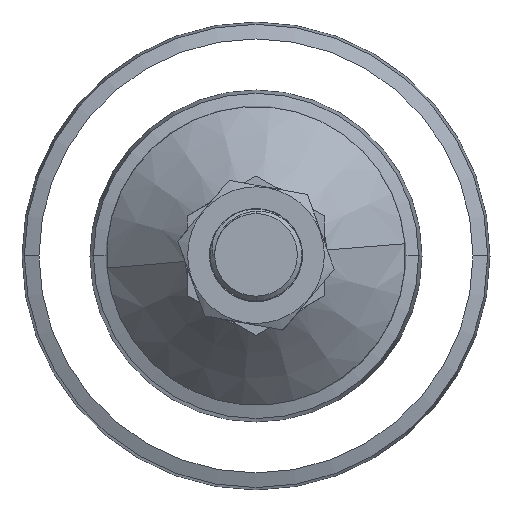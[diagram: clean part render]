
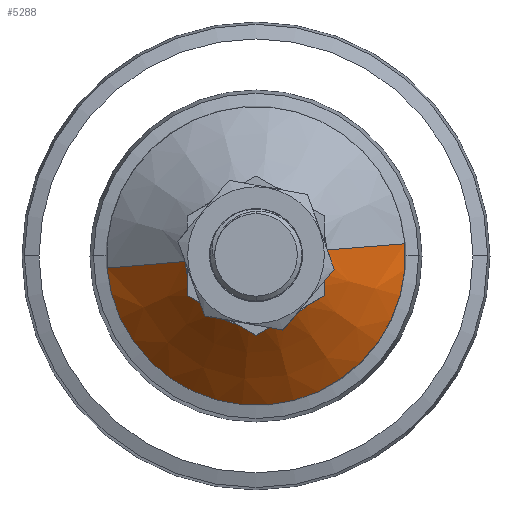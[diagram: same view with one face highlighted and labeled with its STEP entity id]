
A CAD part, top view. The second image highlights one B-rep face of the part: STEP entity #5288.
In plain terms, the highlighted conical face has half-angle 45 degrees and reference radius 14.567 mm.
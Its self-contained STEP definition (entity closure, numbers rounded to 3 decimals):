
#1234 = EDGE_CURVE ( 'NONE', #11568, #2409, #12396, .T. ) ;
#1436 = DIRECTION ( 'NONE',  ( 0., 0., 1. ) ) ;
#2138 = VERTEX_POINT ( 'NONE', #4190 ) ;
#2409 = VERTEX_POINT ( 'NONE', #24892 ) ;
#3033 = AXIS2_PLACEMENT_3D ( 'NONE', #5932, #19581, #7883 ) ;
#3966 = ORIENTED_EDGE ( 'NONE', *, *, #14285, .T. ) ;
#4190 = CARTESIAN_POINT ( 'NONE',  ( -32.563, 0., 12.5 ) ) ;
#4447 = EDGE_LOOP ( 'NONE', ( #21319, #3966, #5559, #19589 ) ) ;
#5050 = DIRECTION ( 'NONE',  ( -1., 0., 0. ) ) ;
#5288 = ADVANCED_FACE ( 'NONE', ( #22616 ), #5827, .T. ) ;
#5559 = ORIENTED_EDGE ( 'NONE', *, *, #7074, .T. ) ;
#5827 = CONICAL_SURFACE ( 'NONE', #23743, 14.567, 0.785 ) ;
#5932 = CARTESIAN_POINT ( 'NONE',  ( 0., 0., 29.5 ) ) ;
#7074 = EDGE_CURVE ( 'NONE', #13580, #2138, #12472, .T. ) ;
#7212 = VECTOR ( 'NONE', #13235, 1000. ) ;
#7297 = VECTOR ( 'NONE', #8726, 1000. ) ;
#7883 = DIRECTION ( 'NONE',  ( -1., 0., 0. ) ) ;
#8726 = DIRECTION ( 'NONE',  ( -0.707, 0., -0.707 ) ) ;
#8946 = DIRECTION ( 'NONE',  ( 0., 0., -1. ) ) ;
#11568 = VERTEX_POINT ( 'NONE', #22039 ) ;
#12396 = LINE ( 'NONE', #21007, #7212 ) ;
#12472 = LINE ( 'NONE', #20426, #7297 ) ;
#13099 = CARTESIAN_POINT ( 'NONE',  ( 0., 0., 12.5 ) ) ;
#13235 = DIRECTION ( 'NONE',  ( 0.707, 0., -0.707 ) ) ;
#13252 = CIRCLE ( 'NONE', #24815, 32.563 ) ;
#13580 = VERTEX_POINT ( 'NONE', #19104 ) ;
#14285 = EDGE_CURVE ( 'NONE', #11568, #13580, #21069, .T. ) ;
#14743 = CARTESIAN_POINT ( 'NONE',  ( 0., 0., 30.497 ) ) ;
#15066 = DIRECTION ( 'NONE',  ( 1., 0., 0. ) ) ;
#19104 = CARTESIAN_POINT ( 'NONE',  ( -15.563, 0., 29.5 ) ) ;
#19577 = EDGE_CURVE ( 'NONE', #2138, #2409, #13252, .T. ) ;
#19581 = DIRECTION ( 'NONE',  ( 0., 0., -1. ) ) ;
#19589 = ORIENTED_EDGE ( 'NONE', *, *, #19577, .T. ) ;
#20426 = CARTESIAN_POINT ( 'NONE',  ( -14.567, 0., 30.497 ) ) ;
#21007 = CARTESIAN_POINT ( 'NONE',  ( 14.567, 0., 30.497 ) ) ;
#21069 = CIRCLE ( 'NONE', #3033, 15.563 ) ;
#21319 = ORIENTED_EDGE ( 'NONE', *, *, #1234, .F. ) ;
#22039 = CARTESIAN_POINT ( 'NONE',  ( 15.563, 0., 29.5 ) ) ;
#22616 = FACE_OUTER_BOUND ( 'NONE', #4447, .T. ) ;
#23743 = AXIS2_PLACEMENT_3D ( 'NONE', #14743, #8946, #5050 ) ;
#24815 = AXIS2_PLACEMENT_3D ( 'NONE', #13099, #1436, #15066 ) ;
#24892 = CARTESIAN_POINT ( 'NONE',  ( 32.563, 0., 12.5 ) ) ;
